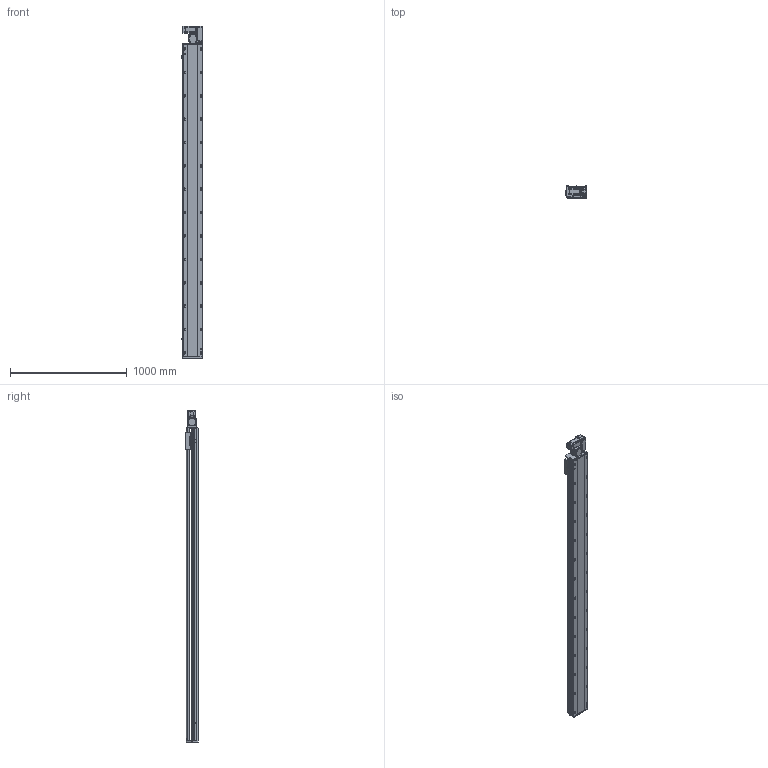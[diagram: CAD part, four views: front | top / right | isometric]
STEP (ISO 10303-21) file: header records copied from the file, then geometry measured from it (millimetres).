
FILE_DESCRIPTION (( 'STEP AP214' ), '1' );
FILE_NAME ('RTB17S-XX-2400-R-M40-C4.STEP', '2025-12-11T07:50:20', ( '' ), ( '' ), 'SwSTEP 2.0', 'SolidWorks 2018', '' );
FILE_SCHEMA (( 'AUTOMOTIVE_DESIGN' ));
Length unit declared in the file: millimetre
Products named in the file (14): RTB17S-XX-2400-R-M40-C4; RTB17S-R-々湍釱蚾饜-400W^RTB17S-XX-XX-R-M40-C4; RTB14-L-017P^RTB17S-R-々湍釱蚾饜-400W_RTB17S-XX-XX-R-M40-C4; RTB17S-L-004佪裝蹟譫蟀諉釱^RTB17S-XX-XX-R-M40-C4; RTB14-L-005P--轴承塑胶压盖^RTB17S-R-皮带座装配-400W_RTB17S-XX-XX-R-M40-C4; RTB17S-L-014-T20--々湍釱^RTB17S-R-々湍釱蚾饜-400W_RTB17S-XX-XX-R-M40-C4; RTH13-BL-012覜茼え俋离^RTB17S-XX-XX-R-M40-C4; RTB14-L-008-M20--萇儂啣^RTB17S-R-々湍釱蚾饜-400W_RTB17S-XX-XX-R-M40-C4; 400W侜督萇儂^RTB17S-XX-XX-R-M40-C4; RTB17S-L-007奻裔^RTB17S-XX-XX-R-M40-C4; RTB17S-L-001耜醱啣^RTB17S-XX-XX-R-M40-C4; RTB17-R-011菁釱^RTB17S-XX-XX-R-M40-C4; OMRON EE-SX672 传感器^RTB17S-XX-XX-R-M40-C4; RTB14-L-018P^RTB17S-R-々湍釱蚾饜-400W_RTB17S-XX-XX-R-M40-C4
Assembly tree (16 placements, depth 3):
  RTB17S-XX-2400-R-M40-C4
    RTB17-R-011菁釱^RTB17S-XX-XX-R-M40-C4
    RTB17S-L-007奻裔^RTB17S-XX-XX-R-M40-C4
    OMRON EE-SX672 传感器^RTB17S-XX-XX-R-M40-C4  x3
    RTB17S-L-001耜醱啣^RTB17S-XX-XX-R-M40-C4
    400W侜督萇儂^RTB17S-XX-XX-R-M40-C4
    RTB17S-L-004佪裝蹟譫蟀諉釱^RTB17S-XX-XX-R-M40-C4
    RTH13-BL-012覜茼え俋离^RTB17S-XX-XX-R-M40-C4
    RTB17S-R-々湍釱蚾饜-400W^RTB17S-XX-XX-R-M40-C4
      RTB17S-L-014-T20--々湍釱^RTB17S-R-々湍釱蚾饜-400W_RTB17S-XX-XX-R-M40-C4
      RTB14-L-005P--轴承塑胶压盖^RTB17S-R-皮带座装配-400W_RTB17S-XX-XX-R-M40-C4
      RTB14-L-008-M20--萇儂啣^RTB17S-R-々湍釱蚾饜-400W_RTB17S-XX-XX-R-M40-C4
      RTB14-L-017P^RTB17S-R-々湍釱蚾饜-400W_RTB17S-XX-XX-R-M40-C4  x2
      RTB14-L-018P^RTB17S-R-々湍釱蚾饜-400W_RTB17S-XX-XX-R-M40-C4
Bounding box: 183.5 x 108 x 2841 mm (x, y, z)
Volume: 23793853.5 mm3; surface area: 2742173.5 mm2
Topology: 15 solids, 15 shells, 2317 faces, 6465 edges, 4221 vertices
Faces by surface type: plane 1082, cylinder 787, bspline 301, cone 139, torus 8
Entity records: 68009 total; most frequent: CARTESIAN_POINT 19270, ORIENTED_EDGE 9774, DIRECTION 9026, EDGE_CURVE 4887, VERTEX_POINT 3209, AXIS2_PLACEMENT_3D 3139, VECTOR 2748, LINE 2748
